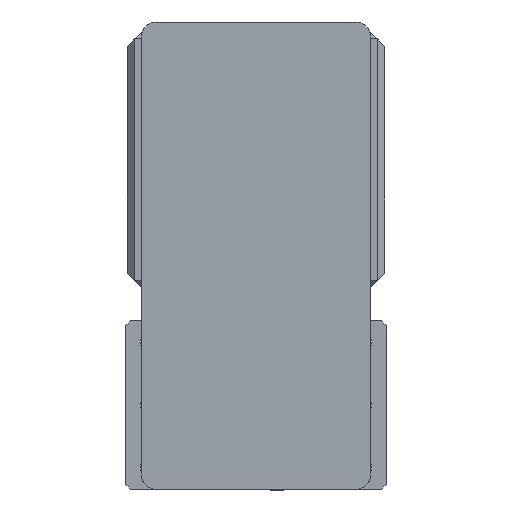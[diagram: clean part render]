
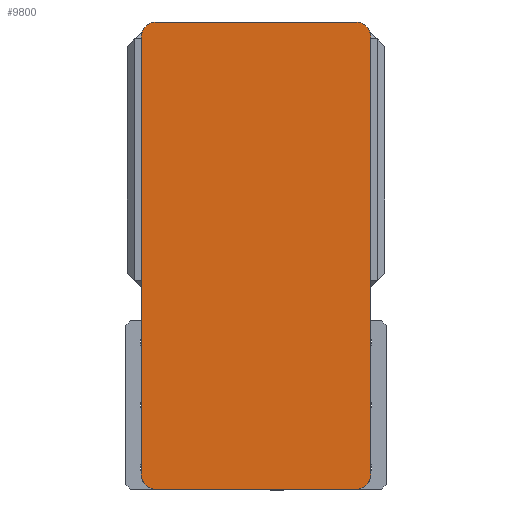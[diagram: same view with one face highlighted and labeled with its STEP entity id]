
A CAD part, left-side view. The second image highlights one B-rep face of the part: STEP entity #9800.
In plain terms, the highlighted planar face has unit normal (-1, 0, 0) as drawn and (0, 0, 1) by its records, which use the part's own axes.
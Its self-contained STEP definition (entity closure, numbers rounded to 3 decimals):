
#9 = VERTEX_POINT ( 'NONE', #1580 ) ;
#66 = EDGE_LOOP ( 'NONE', ( #3968, #803, #7036, #977, #4751, #2745, #5684, #10076 ) ) ;
#123 = EDGE_CURVE ( 'NONE', #9, #5348, #5341, .T. ) ;
#392 = EDGE_CURVE ( 'NONE', #5120, #5893, #9296, .T. ) ;
#443 = AXIS2_PLACEMENT_3D ( 'NONE', #7360, #8248, #2972 ) ;
#584 = EDGE_CURVE ( 'NONE', #5893, #1512, #7949, .T. ) ;
#799 = EDGE_CURVE ( 'NONE', #5873, #9251, #6169, .T. ) ;
#803 = ORIENTED_EDGE ( 'NONE', *, *, #584, .T. ) ;
#820 = EDGE_CURVE ( 'NONE', #9442, #9, #8233, .T. ) ;
#942 = EDGE_CURVE ( 'NONE', #5348, #5120, #6845, .T. ) ;
#977 = ORIENTED_EDGE ( 'NONE', *, *, #799, .T. ) ;
#1205 = PLANE ( 'NONE',  #443 ) ;
#1512 = VERTEX_POINT ( 'NONE', #6096 ) ;
#1580 = CARTESIAN_POINT ( 'NONE',  ( -75., 142.5, 105. ) ) ;
#2106 = AXIS2_PLACEMENT_3D ( 'NONE', #4153, #5244, #6331 ) ;
#2292 = VECTOR ( 'NONE', #6459, 1000. ) ;
#2544 = CARTESIAN_POINT ( 'NONE',  ( 75., 152.5, 105. ) ) ;
#2688 = AXIS2_PLACEMENT_3D ( 'NONE', #8531, #9650, #10033 ) ;
#2703 = AXIS2_PLACEMENT_3D ( 'NONE', #8880, #9107, #9146 ) ;
#2745 = ORIENTED_EDGE ( 'NONE', *, *, #820, .T. ) ;
#2972 = DIRECTION ( 'NONE',  ( 1., 0., 0. ) ) ;
#3299 = CARTESIAN_POINT ( 'NONE',  ( -75., 152.5, 105. ) ) ;
#3374 = DIRECTION ( 'NONE',  ( -1., 0., 0. ) ) ;
#3968 = ORIENTED_EDGE ( 'NONE', *, *, #392, .T. ) ;
#4153 = CARTESIAN_POINT ( 'NONE',  ( 65., -142.5, 105. ) ) ;
#4751 = ORIENTED_EDGE ( 'NONE', *, *, #11087, .T. ) ;
#4966 = VECTOR ( 'NONE', #3374, 1000. ) ;
#5045 = CARTESIAN_POINT ( 'NONE',  ( -75., -142.5, 105. ) ) ;
#5120 = VERTEX_POINT ( 'NONE', #6410 ) ;
#5235 = LINE ( 'NONE', #3299, #4966 ) ;
#5244 = DIRECTION ( 'NONE',  ( 0., 0., 1. ) ) ;
#5341 = LINE ( 'NONE', #10435, #7403 ) ;
#5348 = VERTEX_POINT ( 'NONE', #5045 ) ;
#5414 = CARTESIAN_POINT ( 'NONE',  ( 65., 152.5, 105. ) ) ;
#5684 = ORIENTED_EDGE ( 'NONE', *, *, #123, .T. ) ;
#5873 = VERTEX_POINT ( 'NONE', #8402 ) ;
#5893 = VERTEX_POINT ( 'NONE', #10168 ) ;
#6096 = CARTESIAN_POINT ( 'NONE',  ( 75., -142.5, 105. ) ) ;
#6169 = CIRCLE ( 'NONE', #2703, 10. ) ;
#6331 = DIRECTION ( 'NONE',  ( 1., 0., 0. ) ) ;
#6410 = CARTESIAN_POINT ( 'NONE',  ( -65., -152.5, 105. ) ) ;
#6459 = DIRECTION ( 'NONE',  ( 1., 0., 0. ) ) ;
#6845 = CIRCLE ( 'NONE', #8578, 10. ) ;
#7036 = ORIENTED_EDGE ( 'NONE', *, *, #10496, .T. ) ;
#7360 = CARTESIAN_POINT ( 'NONE',  ( 0., 0., 105. ) ) ;
#7403 = VECTOR ( 'NONE', #11005, 1000. ) ;
#7449 = CARTESIAN_POINT ( 'NONE',  ( -75., -152.5, 105. ) ) ;
#7812 = DIRECTION ( 'NONE',  ( 0., 1., 0. ) ) ;
#7949 = CIRCLE ( 'NONE', #2106, 10. ) ;
#8233 = CIRCLE ( 'NONE', #2688, 10. ) ;
#8248 = DIRECTION ( 'NONE',  ( 0., 0., 1. ) ) ;
#8402 = CARTESIAN_POINT ( 'NONE',  ( 75., 142.5, 105. ) ) ;
#8531 = CARTESIAN_POINT ( 'NONE',  ( -65., 142.5, 105. ) ) ;
#8578 = AXIS2_PLACEMENT_3D ( 'NONE', #8661, #8706, #8740 ) ;
#8661 = CARTESIAN_POINT ( 'NONE',  ( -65., -142.5, 105. ) ) ;
#8706 = DIRECTION ( 'NONE',  ( 0., 0., 1. ) ) ;
#8740 = DIRECTION ( 'NONE',  ( 1., 0., 0. ) ) ;
#8880 = CARTESIAN_POINT ( 'NONE',  ( 65., 142.5, 105. ) ) ;
#9107 = DIRECTION ( 'NONE',  ( 0., 0., 1. ) ) ;
#9146 = DIRECTION ( 'NONE',  ( 1., 0., 0. ) ) ;
#9251 = VERTEX_POINT ( 'NONE', #5414 ) ;
#9296 = LINE ( 'NONE', #7449, #2292 ) ;
#9442 = VERTEX_POINT ( 'NONE', #10277 ) ;
#9650 = DIRECTION ( 'NONE',  ( 0., 0., 1. ) ) ;
#9800 = ADVANCED_FACE ( 'NONE', ( #9960 ), #1205, .T. ) ;
#9960 = FACE_OUTER_BOUND ( 'NONE', #66, .T. ) ;
#10033 = DIRECTION ( 'NONE',  ( 1., 0., 0. ) ) ;
#10076 = ORIENTED_EDGE ( 'NONE', *, *, #942, .T. ) ;
#10168 = CARTESIAN_POINT ( 'NONE',  ( 65., -152.5, 105. ) ) ;
#10277 = CARTESIAN_POINT ( 'NONE',  ( -65., 152.5, 105. ) ) ;
#10435 = CARTESIAN_POINT ( 'NONE',  ( -75., 152.5, 105. ) ) ;
#10496 = EDGE_CURVE ( 'NONE', #1512, #5873, #11001, .T. ) ;
#10738 = VECTOR ( 'NONE', #7812, 1000. ) ;
#11001 = LINE ( 'NONE', #2544, #10738 ) ;
#11005 = DIRECTION ( 'NONE',  ( 0., -1., 0. ) ) ;
#11087 = EDGE_CURVE ( 'NONE', #9251, #9442, #5235, .T. ) ;
